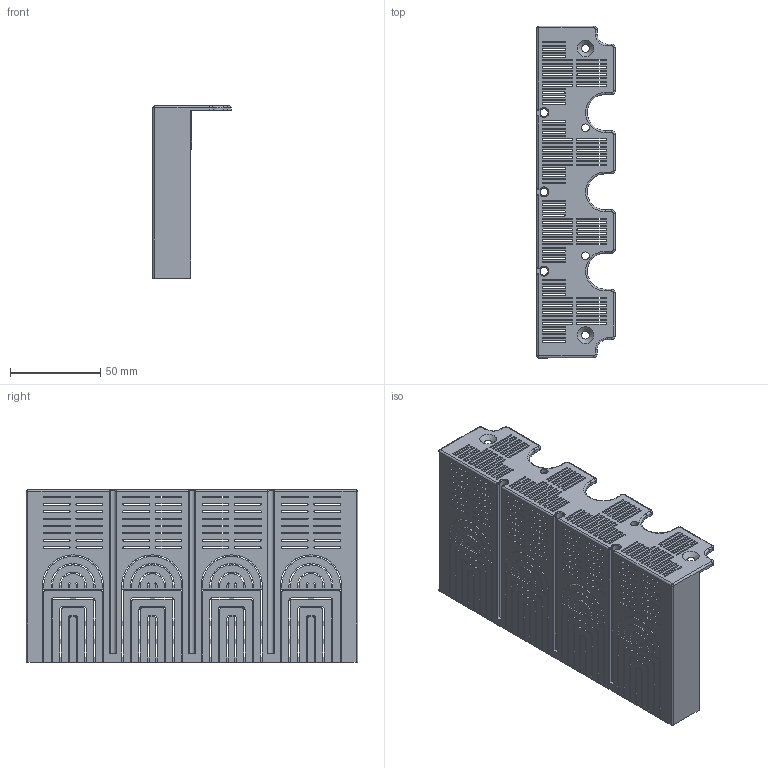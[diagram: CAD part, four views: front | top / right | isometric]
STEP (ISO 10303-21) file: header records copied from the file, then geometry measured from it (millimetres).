
FILE_DESCRIPTION(/* description */ (''),/* implementation_level */ '2;1');
FILE_NAME(/* name */ 'CK8.749.390_d_1-端子盖.stp',/* time_stamp */ '2023-04-04T10:30:07+08:00',/* author */ (''),/* organization */ (''),/* preprocessor_version */ 'ST-DEVELOPER v16.7',/* originating_system */ 'SIEMENS PLM Software NX 12.0',/* authorisation */ '');
FILE_SCHEMA (('AUTOMOTIVE_DESIGN { 1 0 10303 214 3 1 1 1 }'));
Length unit declared in the file: millimetre
Products named in the file (1): CK8.749.390_d_1-端子盖
Bounding box: 43.5 x 184 x 95.5 mm (x, y, z)
Volume: 71166.3 mm3; surface area: 84546 mm2
Topology: 1 solids, 1 shells, 1632 faces, 5219 edges, 3430 vertices
Faces by surface type: plane 1069, cylinder 522, bspline 22, torus 13, sphere 4, cone 2
Full cylindrical faces by diameter (mm): 4.3 x2
Entity records: 59158 total; most frequent: CARTESIAN_POINT 10914, ORIENTED_EDGE 10414, DIRECTION 9652, EDGE_CURVE 5207, LINE 3944, VECTOR 3944, VERTEX_POINT 3426, AXIS2_PLACEMENT_3D 2854
